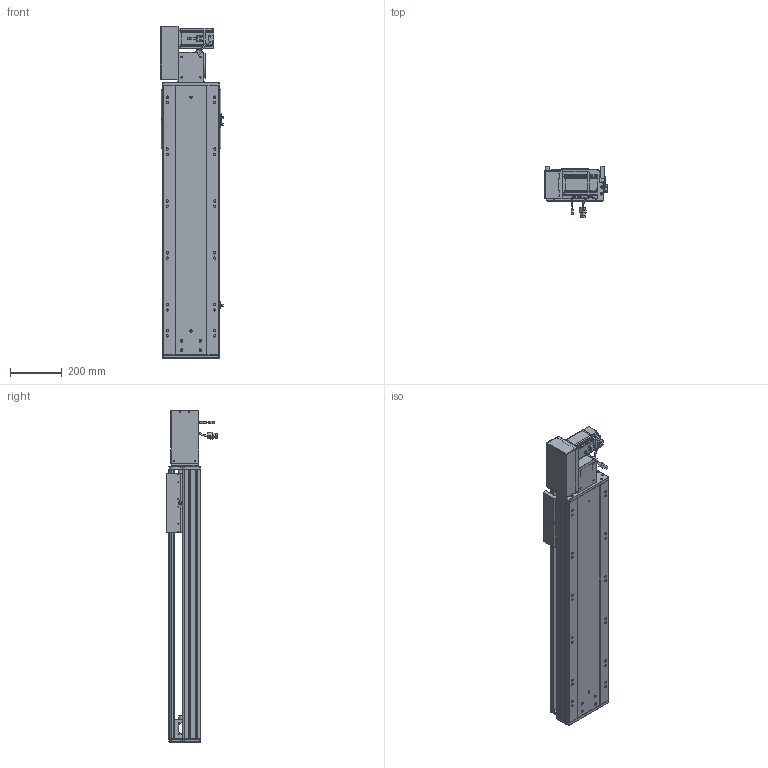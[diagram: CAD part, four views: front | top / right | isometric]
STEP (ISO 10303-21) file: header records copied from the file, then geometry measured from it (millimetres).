
FILE_DESCRIPTION (( 'STEP AP203' ), '1' );
FILE_NAME ('RY220-T-300-LK.SLDASM_700.step', '2022-07-25T08:13:30', ( '' ), ( '' ), 'SwSTEP 2.0', 'SolidWorks 2016', '' );
FILE_SCHEMA (( 'CONFIG_CONTROL_DESIGN' ));
Length unit declared in the file: millimetre
Products named in the file (14): RY220-俋离672覜茼んえ; RY220翋肮祭謫釱; 怢湛750W_ECMA-CX0807ES; RY220-T-300-LK.SLDASM_700; 滅袉蝶18-15; RY220-T-蛌殏萇儂假蚾啣(750W); RY220-T菁釱-300_700; RY220-同步轮副支撑座6304×2; 110A-T-肮祭謫釱傷裔; RY220-T-湍謫欶(鍼踢); RY220圉猾敕々湍臏賑輸; 覜茼ん672; RY220翋肮祭謫裔啣; RY220-T-300-奻裔啣_700
Assembly tree (18 placements, depth 2):
  RY220-T-300-LK.SLDASM_700
    RY220-T菁釱-300_700
    RY220翋肮祭謫釱
    覜茼ん672  x3
    RY220圉猾敕々湍臏賑輸
    RY220-T-300-奻裔啣_700
    RY220-俋离672覜茼んえ
    滅袉蝶18-15  x3
    RY220翋肮祭謫裔啣  x2
    110A-T-肮祭謫釱傷裔
    怢湛750W_ECMA-CX0807ES
    RY220-T-湍謫欶(鍼踢)
    RY220-T-蛌殏萇儂假蚾啣(750W)
    RY220-同步轮副支撑座6304×2
Bounding box: 239.7 x 198.77 x 1279 mm (x, y, z)
Volume: 10317102.8 mm3; surface area: 2947919.5 mm2
Topology: 19 solids, 19 shells, 2570 faces, 7087 edges, 4508 vertices
Faces by surface type: cylinder 1190, plane 1069, cone 229, bspline 56, sphere 16, torus 10
Entity records: 85459 total; most frequent: CARTESIAN_POINT 24437, ORIENTED_EDGE 12698, DIRECTION 11944, EDGE_CURVE 6349, AXIS2_PLACEMENT_3D 4204, VERTEX_POINT 4132, LINE 3536, VECTOR 3536
